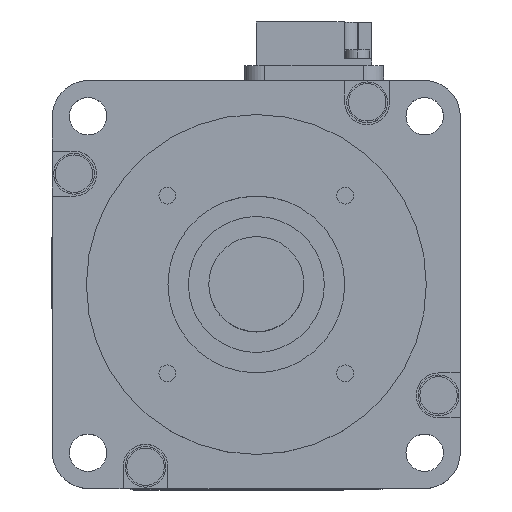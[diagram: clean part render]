
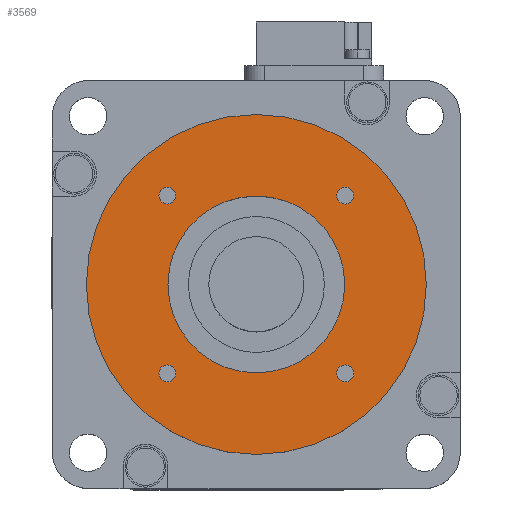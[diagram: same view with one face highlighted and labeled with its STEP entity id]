
A CAD part, top view. The second image highlights one B-rep face of the part: STEP entity #3569.
In plain terms, the highlighted planar face has unit normal (0, 0, 1).
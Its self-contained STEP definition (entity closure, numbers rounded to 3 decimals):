
#1335 = VERTEX_POINT ( 'NONE', #7372 ) ;
#1337 = EDGE_CURVE ( 'NONE', #1335, #1388, #7371, .T. ) ;
#1345 = VERTEX_POINT ( 'NONE', #7417 ) ;
#1353 = EDGE_CURVE ( 'NONE', #1376, #1378, #7399, .T. ) ;
#1376 = VERTEX_POINT ( 'NONE', #7469 ) ;
#1378 = VERTEX_POINT ( 'NONE', #7468 ) ;
#1385 = VERTEX_POINT ( 'NONE', #7520 ) ;
#1387 = EDGE_CURVE ( 'NONE', #1385, #1345, #7519, .T. ) ;
#1388 = VERTEX_POINT ( 'NONE', #7514 ) ;
#1446 = VERTEX_POINT ( 'NONE', #7585 ) ;
#1448 = EDGE_CURVE ( 'NONE', #1446, #1449, #7584, .T. ) ;
#1449 = VERTEX_POINT ( 'NONE', #7642 ) ;
#1551 = EDGE_CURVE ( 'NONE', #1552, #1553, #7826, .T. ) ;
#1552 = VERTEX_POINT ( 'NONE', #7821 ) ;
#1553 = VERTEX_POINT ( 'NONE', #7820 ) ;
#1570 = EDGE_CURVE ( 'NONE', #1571, #1572, #7850, .T. ) ;
#1571 = VERTEX_POINT ( 'NONE', #7846 ) ;
#1572 = VERTEX_POINT ( 'NONE', #7845 ) ;
#3537 = ORIENTED_EDGE ( 'NONE', *, *, #3538, .T. ) ;
#3538 = EDGE_CURVE ( 'NONE', #1572, #1571, #11439, .T. ) ;
#3539 = ORIENTED_EDGE ( 'NONE', *, *, #1570, .T. ) ;
#3540 = EDGE_LOOP ( 'NONE', ( #3541, #3542 ) ) ;
#3541 = ORIENTED_EDGE ( 'NONE', *, *, #1551, .F. ) ;
#3542 = ORIENTED_EDGE ( 'NONE', *, *, #3543, .F. ) ;
#3543 = EDGE_CURVE ( 'NONE', #1553, #1552, #11430, .T. ) ;
#3548 = ORIENTED_EDGE ( 'NONE', *, *, #1387, .F. ) ;
#3549 = EDGE_LOOP ( 'NONE', ( #3550, #3552 ) ) ;
#3550 = ORIENTED_EDGE ( 'NONE', *, *, #3551, .F. ) ;
#3551 = EDGE_CURVE ( 'NONE', #1388, #1335, #11479, .T. ) ;
#3552 = ORIENTED_EDGE ( 'NONE', *, *, #1337, .F. ) ;
#3553 = EDGE_LOOP ( 'NONE', ( #3554, #3556 ) ) ;
#3554 = ORIENTED_EDGE ( 'NONE', *, *, #3555, .F. ) ;
#3555 = EDGE_CURVE ( 'NONE', #1378, #1376, #11475, .T. ) ;
#3556 = ORIENTED_EDGE ( 'NONE', *, *, #1353, .F. ) ;
#3557 = EDGE_LOOP ( 'NONE', ( #3558, #3609 ) ) ;
#3558 = ORIENTED_EDGE ( 'NONE', *, *, #3559, .F. ) ;
#3559 = EDGE_CURVE ( 'NONE', #1449, #1446, #11470, .T. ) ;
#3569 = ADVANCED_FACE ( 'NONE', ( #11525, #11524, #11523, #11522, #11521, #11520 ), #11519, .T. ) ;
#3570 = EDGE_LOOP ( 'NONE', ( #3571, #3548 ) ) ;
#3571 = ORIENTED_EDGE ( 'NONE', *, *, #3572, .F. ) ;
#3572 = EDGE_CURVE ( 'NONE', #1345, #1385, #11514, .T. ) ;
#3609 = ORIENTED_EDGE ( 'NONE', *, *, #1448, .F. ) ;
#3610 = EDGE_LOOP ( 'NONE', ( #3537, #3539 ) ) ;
#7367 = DIRECTION ( 'NONE',  ( -1., 0., 0. ) ) ;
#7368 = DIRECTION ( 'NONE',  ( 0., 0., 1. ) ) ;
#7369 = CARTESIAN_POINT ( 'NONE',  ( -13.081, -13.081, 3. ) ) ;
#7370 = AXIS2_PLACEMENT_3D ( 'NONE', #7369, #7368, #7367 ) ;
#7371 = CIRCLE ( 'NONE', #7370, 1.25 ) ;
#7372 = CARTESIAN_POINT ( 'NONE',  ( -14.331, -13.081, 3. ) ) ;
#7399 = CIRCLE ( 'NONE', #7456, 1.25 ) ;
#7417 = CARTESIAN_POINT ( 'NONE',  ( 14.331, -13.081, 3. ) ) ;
#7453 = DIRECTION ( 'NONE',  ( 0., 1., 0. ) ) ;
#7454 = DIRECTION ( 'NONE',  ( 0., 0., 1. ) ) ;
#7455 = CARTESIAN_POINT ( 'NONE',  ( -13.081, 13.081, 3. ) ) ;
#7456 = AXIS2_PLACEMENT_3D ( 'NONE', #7455, #7454, #7453 ) ;
#7468 = CARTESIAN_POINT ( 'NONE',  ( -11.831, 13.081, 3. ) ) ;
#7469 = CARTESIAN_POINT ( 'NONE',  ( -14.331, 13.081, 3. ) ) ;
#7514 = CARTESIAN_POINT ( 'NONE',  ( -11.831, -13.081, 3. ) ) ;
#7515 = DIRECTION ( 'NONE',  ( 0., -1., 0. ) ) ;
#7516 = DIRECTION ( 'NONE',  ( 0., 0., 1. ) ) ;
#7517 = CARTESIAN_POINT ( 'NONE',  ( 13.081, -13.081, 3. ) ) ;
#7518 = AXIS2_PLACEMENT_3D ( 'NONE', #7517, #7516, #7515 ) ;
#7519 = CIRCLE ( 'NONE', #7518, 1.25 ) ;
#7520 = CARTESIAN_POINT ( 'NONE',  ( 11.831, -13.081, 3. ) ) ;
#7584 = CIRCLE ( 'NONE', #7646, 1.25 ) ;
#7585 = CARTESIAN_POINT ( 'NONE',  ( 11.831, 13.081, 3. ) ) ;
#7642 = CARTESIAN_POINT ( 'NONE',  ( 14.331, 13.081, 3. ) ) ;
#7643 = DIRECTION ( 'NONE',  ( 1., 0., 0. ) ) ;
#7644 = DIRECTION ( 'NONE',  ( 0., 0., 1. ) ) ;
#7645 = CARTESIAN_POINT ( 'NONE',  ( 13.081, 13.081, 3. ) ) ;
#7646 = AXIS2_PLACEMENT_3D ( 'NONE', #7645, #7644, #7643 ) ;
#7820 = CARTESIAN_POINT ( 'NONE',  ( 25., 0., 3. ) ) ;
#7821 = CARTESIAN_POINT ( 'NONE',  ( -25., 0., 3. ) ) ;
#7822 = DIRECTION ( 'NONE',  ( -1., 0., 0. ) ) ;
#7823 = DIRECTION ( 'NONE',  ( 0., 0., -1. ) ) ;
#7824 = CARTESIAN_POINT ( 'NONE',  ( 0., 0., 3. ) ) ;
#7825 = AXIS2_PLACEMENT_3D ( 'NONE', #7824, #7823, #7822 ) ;
#7826 = CIRCLE ( 'NONE', #7825, 25. ) ;
#7845 = CARTESIAN_POINT ( 'NONE',  ( -13., 0., 3. ) ) ;
#7846 = CARTESIAN_POINT ( 'NONE',  ( 13., 0., 3. ) ) ;
#7847 = DIRECTION ( 'NONE',  ( -1., 0., 0. ) ) ;
#7848 = DIRECTION ( 'NONE',  ( 0., 0., -1. ) ) ;
#7849 = AXIS2_PLACEMENT_3D ( 'NONE', #7856, #7848, #7847 ) ;
#7850 = CIRCLE ( 'NONE', #7849, 13. ) ;
#7856 = CARTESIAN_POINT ( 'NONE',  ( 0., 0., 3. ) ) ;
#11430 = CIRCLE ( 'NONE', #11490, 25. ) ;
#11431 = DIRECTION ( 'NONE',  ( -1., 0., 0. ) ) ;
#11432 = DIRECTION ( 'NONE',  ( 0., 0., -1. ) ) ;
#11433 = CARTESIAN_POINT ( 'NONE',  ( 0., 0., 3. ) ) ;
#11434 = AXIS2_PLACEMENT_3D ( 'NONE', #11433, #11432, #11431 ) ;
#11439 = CIRCLE ( 'NONE', #11434, 13. ) ;
#11466 = DIRECTION ( 'NONE',  ( 1., 0., 0. ) ) ;
#11467 = DIRECTION ( 'NONE',  ( 0., 0., 1. ) ) ;
#11468 = CARTESIAN_POINT ( 'NONE',  ( 13.081, 13.081, 3. ) ) ;
#11469 = AXIS2_PLACEMENT_3D ( 'NONE', #11468, #11467, #11466 ) ;
#11470 = CIRCLE ( 'NONE', #11469, 1.25 ) ;
#11471 = DIRECTION ( 'NONE',  ( 0., 1., 0. ) ) ;
#11472 = DIRECTION ( 'NONE',  ( 0., 0., 1. ) ) ;
#11473 = CARTESIAN_POINT ( 'NONE',  ( -13.081, 13.081, 3. ) ) ;
#11474 = AXIS2_PLACEMENT_3D ( 'NONE', #11473, #11472, #11471 ) ;
#11475 = CIRCLE ( 'NONE', #11474, 1.25 ) ;
#11476 = DIRECTION ( 'NONE',  ( -1., 0., 0. ) ) ;
#11477 = DIRECTION ( 'NONE',  ( 0., 0., 1. ) ) ;
#11478 = AXIS2_PLACEMENT_3D ( 'NONE', #11484, #11477, #11476 ) ;
#11479 = CIRCLE ( 'NONE', #11478, 1.25 ) ;
#11484 = CARTESIAN_POINT ( 'NONE',  ( -13.081, -13.081, 3. ) ) ;
#11487 = DIRECTION ( 'NONE',  ( -1., 0., 0. ) ) ;
#11488 = DIRECTION ( 'NONE',  ( 0., 0., -1. ) ) ;
#11489 = CARTESIAN_POINT ( 'NONE',  ( 0., 0., 3. ) ) ;
#11490 = AXIS2_PLACEMENT_3D ( 'NONE', #11489, #11488, #11487 ) ;
#11510 = DIRECTION ( 'NONE',  ( 0., -1., 0. ) ) ;
#11511 = DIRECTION ( 'NONE',  ( 0., 0., 1. ) ) ;
#11512 = CARTESIAN_POINT ( 'NONE',  ( 13.081, -13.081, 3. ) ) ;
#11513 = AXIS2_PLACEMENT_3D ( 'NONE', #11512, #11511, #11510 ) ;
#11514 = CIRCLE ( 'NONE', #11513, 1.25 ) ;
#11515 = DIRECTION ( 'NONE',  ( 1., 0., 0. ) ) ;
#11516 = DIRECTION ( 'NONE',  ( 0., 0., 1. ) ) ;
#11517 = CARTESIAN_POINT ( 'NONE',  ( 0., 25., 3. ) ) ;
#11518 = AXIS2_PLACEMENT_3D ( 'NONE', #11517, #11516, #11515 ) ;
#11519 = PLANE ( 'NONE',  #11518 ) ;
#11520 = FACE_OUTER_BOUND ( 'NONE', #3540, .T. ) ;
#11521 = FACE_BOUND ( 'NONE', #3610, .T. ) ;
#11522 = FACE_BOUND ( 'NONE', #3557, .T. ) ;
#11523 = FACE_BOUND ( 'NONE', #3553, .T. ) ;
#11524 = FACE_BOUND ( 'NONE', #3549, .T. ) ;
#11525 = FACE_BOUND ( 'NONE', #3570, .T. ) ;
